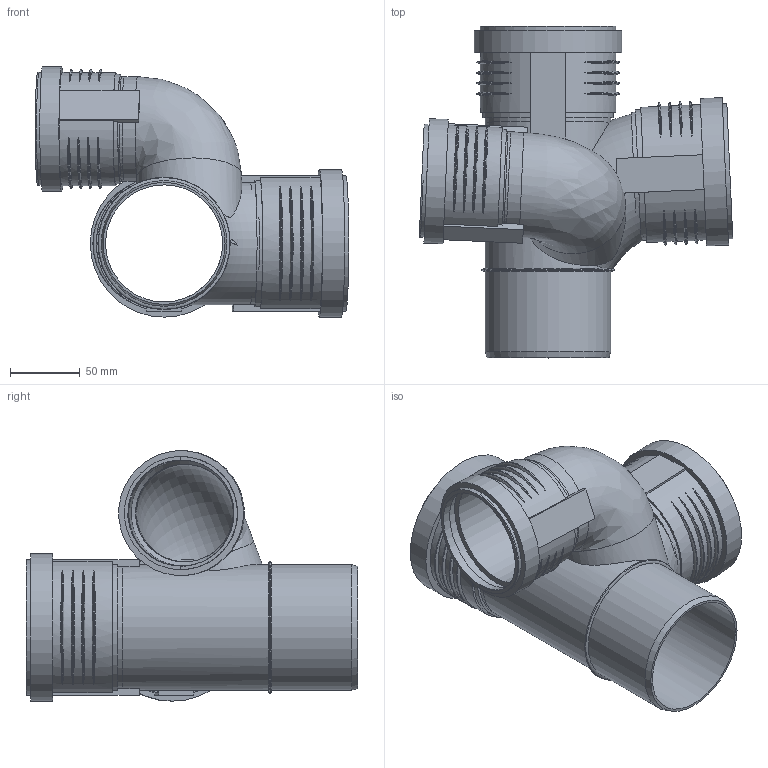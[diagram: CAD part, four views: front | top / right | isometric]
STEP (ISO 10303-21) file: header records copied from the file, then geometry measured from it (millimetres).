
FILE_DESCRIPTION(/* description */ (''),/* implementation_level */ '2;1');
FILE_NAME(/* name */ 'Z:\Geberit\Export\NewStep\390463.stp',/* time_stamp */ '2014-04-02T08:13:25+02:00',/* author */ ('ML'),/* organization */ (''),/* preprocessor_version */ 'ST-DEVELOPER v15.2',/* originating_system */ 'Autodesk Inventor 2014',/* authorisation */ '');
FILE_SCHEMA (('AUTOMOTIVE_DESIGN { 1 0 10303 214 3 1 1 }'));
Length unit declared in the file: millimetre
Products named in the file (4): 861568; 861403; 861402; 390463
Bounding box: 224.86 x 237.95 x 179.54 mm (x, y, z)
Volume: 401762.8 mm3; surface area: 282771.4 mm2
Topology: 5 solids, 5 shells, 204 faces, 496 edges, 340 vertices
Faces by surface type: torus 78, plane 68, cylinder 53, cone 4, bspline 1
Full cylindrical faces by diameter (mm): 70 x1, 70.2 x1, 75.2 x2, 76.2 x2, 81.2 x1, 84 x2, 84.2 x2, 84.6 x1, 89.6 x1, 90.2 x5, 91.2 x4, 97.2 x2, 99.8 x2, 105.8 x2
Entity records: 6231 total; most frequent: CARTESIAN_POINT 2774, ORIENTED_EDGE 642, DIRECTION 626, EDGE_CURVE 321, AXIS2_PLACEMENT_3D 273, VERTEX_POINT 237, EDGE_LOOP 216, STYLED_ITEM 153
